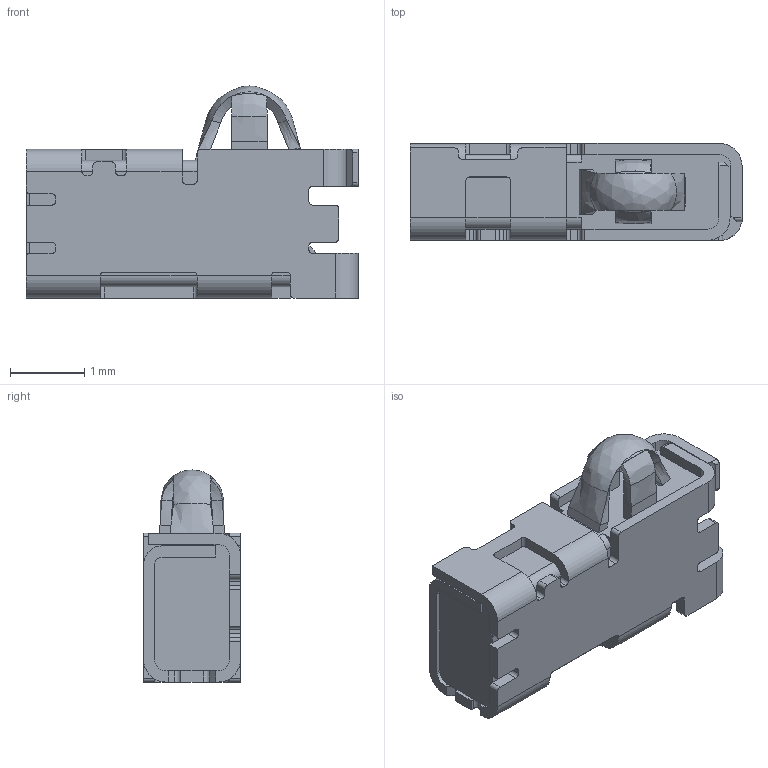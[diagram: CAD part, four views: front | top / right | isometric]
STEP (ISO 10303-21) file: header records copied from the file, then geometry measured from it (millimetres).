
FILE_DESCRIPTION((''),'2;1');
FILE_NAME('ASM0012_ASM','2022-04-26T',('Moriguchi'),(''),'CREO PARAMETRIC BY PTC INC, 2014500','CREO PARAMETRIC BY PTC INC, 2014500','');
FILE_SCHEMA(('CONFIG_CONTROL_DESIGN'));
Products named in the file (2): 3D-2014012-0A-00; ASM0012_ASM
Assembly tree (1 placements, depth 2):
  ASM0012_ASM
    3D-2014012-0A-00
Bounding box: 4.46 x 1.3 x 2.85 mm (x, y, z)
Volume: 10 mm3; surface area: 43.2 mm2
Topology: 1 solids, 1 shells, 287 faces, 775 edges, 489 vertices
Faces by surface type: plane 150, cylinder 95, bspline 34, cone 8
Entity records: 10220 total; most frequent: CARTESIAN_POINT 3015, ORIENTED_EDGE 1550, DIRECTION 1433, EDGE_CURVE 775, VECTOR 507, LINE 507, VERTEX_POINT 489, AXIS2_PLACEMENT_3D 463
